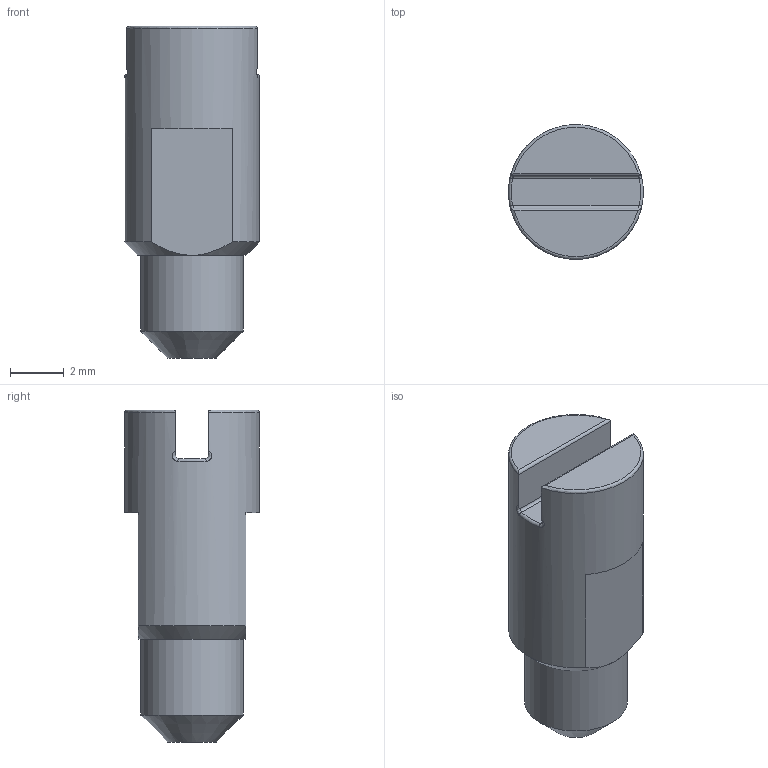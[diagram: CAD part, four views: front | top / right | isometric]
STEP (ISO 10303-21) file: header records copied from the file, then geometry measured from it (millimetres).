
FILE_DESCRIPTION(('STEP AP214'), '1');
FILE_NAME('8732303373', '', ('UNSPECIFIED'), ('UNSPECIFIED'), 'C3D Converter', 'C3D Toolkit', '');
FILE_SCHEMA(('AUTOMOTIVE_DESIGN { 1 0 10303 214 3 1 1}'));
Length unit declared in the file: millimetre
Products named in the file (1): 8732303373
Bounding box: 4.99 x 5 x 12.3 mm (x, y, z)
Volume: 183.5 mm3; surface area: 215.8 mm2
Topology: 1 solids, 1 shells, 28 faces, 64 edges, 39 vertices
Faces by surface type: plane 11, cylinder 6, torus 4, bspline 4, cone 3
Full cylindrical faces by diameter (mm): 3.8 x1, 5 x1
Entity records: 1688 total; most frequent: CARTESIAN_POINT 849, ORIENTED_EDGE 122, DIRECTION 106, EDGE_CURVE 61, AXIS2_PLACEMENT_3D 44, VERTEX_POINT 39, EDGE_LOOP 32, COLOUR_RGB 29
